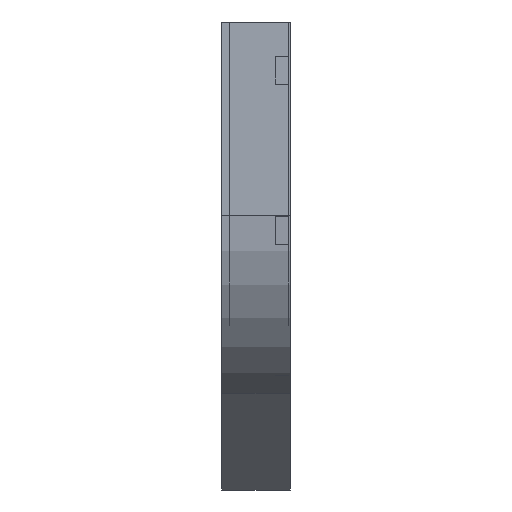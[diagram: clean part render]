
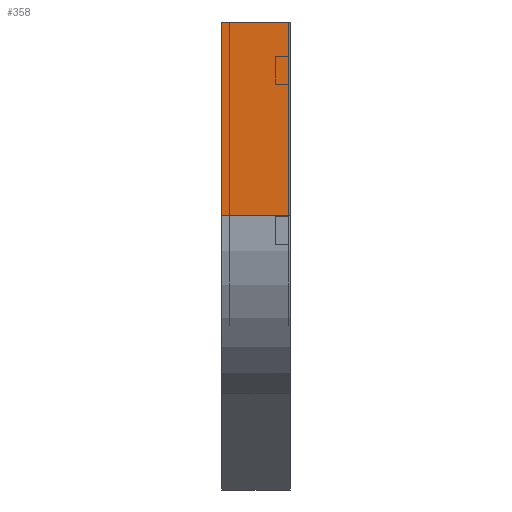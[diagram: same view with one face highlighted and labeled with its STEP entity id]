
A CAD part, left-side view. The second image highlights one B-rep face of the part: STEP entity #358.
In plain terms, the highlighted planar face has unit normal (-1, 0, 0).
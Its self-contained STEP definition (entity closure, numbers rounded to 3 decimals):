
#21 = LINE ( 'NONE', #300, #724 ) ;
#195 = EDGE_CURVE ( 'NONE', #1784, #674, #21, .T. ) ;
#253 = EDGE_CURVE ( 'NONE', #1703, #1725, #579, .T. ) ;
#289 = CARTESIAN_POINT ( 'NONE',  ( 0., 100., 0. ) ) ;
#290 = DIRECTION ( 'NONE',  ( 0., -1., 0. ) ) ;
#300 = CARTESIAN_POINT ( 'NONE',  ( 0., 0., -280.94 ) ) ;
#312 = DIRECTION ( 'NONE',  ( 0., 0., -1. ) ) ;
#316 = ORIENTED_EDGE ( 'NONE', *, *, #1409, .F. ) ;
#348 = ORIENTED_EDGE ( 'NONE', *, *, #1722, .T. ) ;
#358 = ADVANCED_FACE ( 'NONE', ( #1350 ), #477, .F. ) ;
#477 = PLANE ( 'NONE',  #1617 ) ;
#579 = LINE ( 'NONE', #1172, #656 ) ;
#617 = CARTESIAN_POINT ( 'NONE',  ( 0., 0., 0. ) ) ;
#656 = VECTOR ( 'NONE', #290, 1000. ) ;
#674 = VERTEX_POINT ( 'NONE', #1571 ) ;
#697 = CARTESIAN_POINT ( 'NONE',  ( 0., 100., 0. ) ) ;
#718 = DIRECTION ( 'NONE',  ( 0., -1., 0. ) ) ;
#724 = VECTOR ( 'NONE', #718, 1000. ) ;
#955 = ORIENTED_EDGE ( 'NONE', *, *, #195, .T. ) ;
#969 = CARTESIAN_POINT ( 'NONE',  ( 0., 0., 0. ) ) ;
#1008 = CARTESIAN_POINT ( 'NONE',  ( 0., 0., 0. ) ) ;
#1030 = DIRECTION ( 'NONE',  ( 0., 0., -1. ) ) ;
#1093 = VECTOR ( 'NONE', #1030, 1000. ) ;
#1097 = ORIENTED_EDGE ( 'NONE', *, *, #253, .F. ) ;
#1172 = CARTESIAN_POINT ( 'NONE',  ( 0., 0., 0. ) ) ;
#1350 = FACE_OUTER_BOUND ( 'NONE', #1709, .T. ) ;
#1379 = DIRECTION ( 'NONE',  ( 1., 0., 0. ) ) ;
#1399 = LINE ( 'NONE', #1008, #1655 ) ;
#1409 = EDGE_CURVE ( 'NONE', #1725, #674, #1399, .T. ) ;
#1424 = CARTESIAN_POINT ( 'NONE',  ( 0., 100., -280.94 ) ) ;
#1498 = DIRECTION ( 'NONE',  ( 0., 0., -1. ) ) ;
#1571 = CARTESIAN_POINT ( 'NONE',  ( 0., 0., -280.94 ) ) ;
#1617 = AXIS2_PLACEMENT_3D ( 'NONE', #617, #1379, #1498 ) ;
#1655 = VECTOR ( 'NONE', #312, 1000. ) ;
#1703 = VERTEX_POINT ( 'NONE', #697 ) ;
#1709 = EDGE_LOOP ( 'NONE', ( #316, #1097, #348, #955 ) ) ;
#1722 = EDGE_CURVE ( 'NONE', #1703, #1784, #1732, .T. ) ;
#1725 = VERTEX_POINT ( 'NONE', #969 ) ;
#1732 = LINE ( 'NONE', #289, #1093 ) ;
#1784 = VERTEX_POINT ( 'NONE', #1424 ) ;
